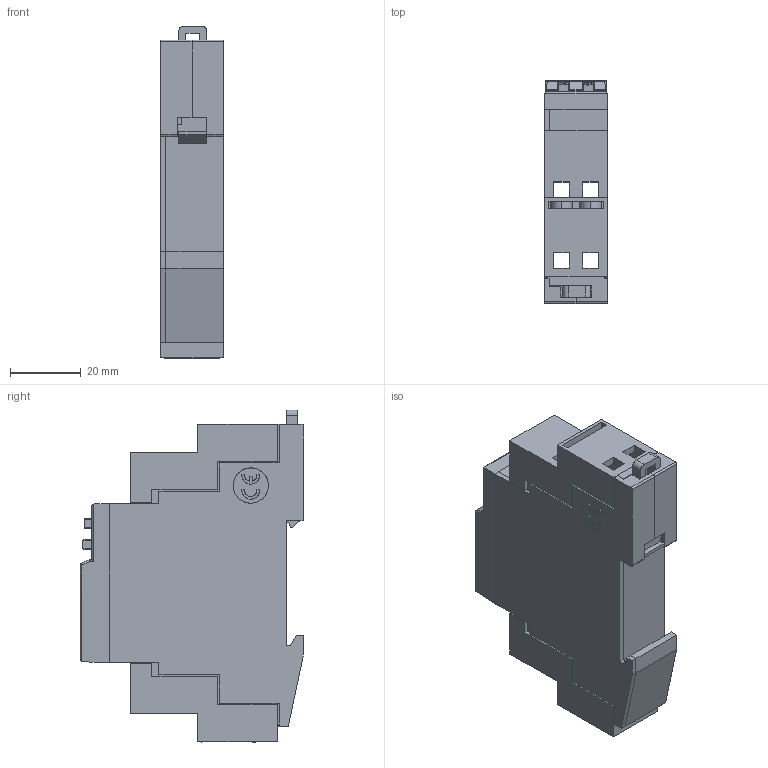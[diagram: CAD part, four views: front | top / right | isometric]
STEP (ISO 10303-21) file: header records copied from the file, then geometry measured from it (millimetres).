
FILE_DESCRIPTION(('STEP AP214'),'2;1');
FILE_NAME('1271-skin.stp','2010-02-18T08:48:42',(''),(''),'2007.1.106','THINKDESIGN','');
FILE_SCHEMA(('AUTOMOTIVE_DESIGN'));
Products named in the file (1): None
Bounding box: 17.8 x 63.3 x 94 mm (x, y, z)
Surface area: 21635.2 mm2 (no closed solid volume)
Topology: 0 solids, 0 shells, 748 faces, 3852 edges, 3850 vertices
Faces by surface type: plane 406, cylinder 177, bspline 165
Entity records: 54114 total; most frequent: CARTESIAN_POINT 27718, DIRECTION 4198, COMPOSITE_CURVE_SEGMENT 3850, TRIMMED_CURVE 2771, VECTOR 2510, LINE 2510, AXIS2_PLACEMENT_3D 844, OUTER_BOUNDARY_CURVE 748
